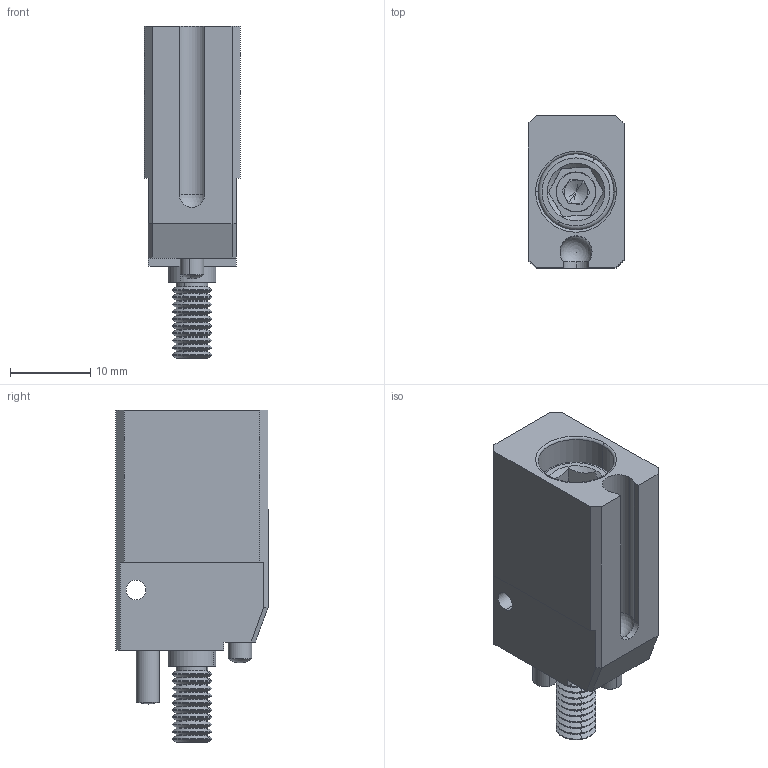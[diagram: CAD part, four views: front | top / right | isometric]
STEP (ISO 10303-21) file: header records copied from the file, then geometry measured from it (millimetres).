
FILE_DESCRIPTION (( 'STEP AP203' ), '1' );
FILE_NAME ('CRG安全锁B款装配.STEP', '2024-08-20T07:53:01', ( '微软用户' ), ( '微软中国' ), 'SwSTEP 2.0', 'SolidWorks 2018', '' );
FILE_SCHEMA (( 'CONFIG_CONTROL_DESIGN' ));
Length unit declared in the file: millimetre
Products named in the file (7): QC-S快换锁附模块-定位螺丝; QC-S快换锁附模块-本体; 安全锁模块; E-MSC3-12; CRG安全锁B款装配; E-MSC3-8; hex socket set screws with flat point gb_GB_FASTENER_SCREWS_HSFP M6X5-S
Assembly tree (5 placements, depth 2):
  安全锁模块
  CRG安全锁B款装配
    QC-S快换锁附模块-本体
    E-MSC3-12
    E-MSC3-8
    hex socket set screws with flat point gb_GB_FASTENER_SCREWS_HSFP M6X5-S
    QC-S快换锁附模块-定位螺丝
Bounding box: 12 x 19 x 41.5 mm (x, y, z)
Volume: 5613.8 mm3; surface area: 4895.9 mm2
Topology: 5 solids, 5 shells, 235 faces, 501 edges, 280 vertices
Faces by surface type: cylinder 81, cone 80, plane 53, torus 16, sphere 5
Entity records: 6941 total; most frequent: DIRECTION 1207, CARTESIAN_POINT 1085, ORIENTED_EDGE 986, EDGE_CURVE 493, AXIS2_PLACEMENT_3D 477, VERTEX_POINT 279, LINE 253, VECTOR 253
